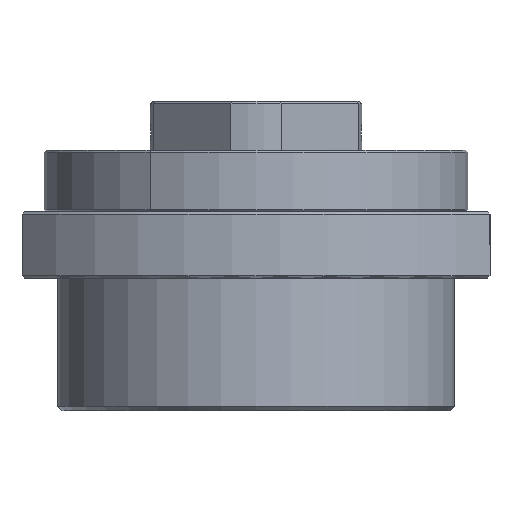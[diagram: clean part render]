
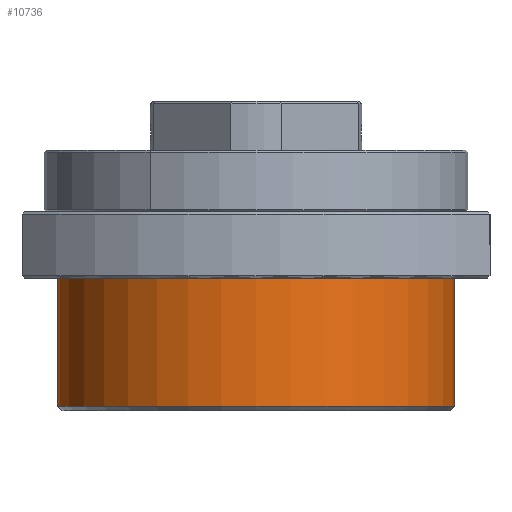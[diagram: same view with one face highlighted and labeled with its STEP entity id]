
A CAD part, left-side view. The second image highlights one B-rep face of the part: STEP entity #10736.
In plain terms, the highlighted cylindrical face has radius 45 mm (diameter 90 mm), a partial arc.
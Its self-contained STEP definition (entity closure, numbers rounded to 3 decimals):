
#40 = VECTOR ( 'NONE', #2306, 1000. ) ;
#304 = CARTESIAN_POINT ( 'NONE',  ( 0., -45., 7.5 ) ) ;
#368 = DIRECTION ( 'NONE',  ( 0., 0., -1. ) ) ;
#474 = VERTEX_POINT ( 'NONE', #6356 ) ;
#580 = FACE_OUTER_BOUND ( 'NONE', #3702, .T. ) ;
#2306 = DIRECTION ( 'NONE',  ( 0., 0., -1. ) ) ;
#2364 = CARTESIAN_POINT ( 'NONE',  ( 0., 0., -21.5 ) ) ;
#2968 = LINE ( 'NONE', #6537, #3450 ) ;
#3433 = DIRECTION ( 'NONE',  ( 0., 0., 1. ) ) ;
#3450 = VECTOR ( 'NONE', #368, 1000. ) ;
#3683 = DIRECTION ( 'NONE',  ( 0., 0., -1. ) ) ;
#3702 = EDGE_LOOP ( 'NONE', ( #9459, #12394, #5554, #9456 ) ) ;
#3896 = CYLINDRICAL_SURFACE ( 'NONE', #8167, 45. ) ;
#3913 = EDGE_CURVE ( 'NONE', #6608, #13615, #8793, .T. ) ;
#4857 = CARTESIAN_POINT ( 'NONE',  ( 0., 0., 7.5 ) ) ;
#4946 = VERTEX_POINT ( 'NONE', #9524 ) ;
#5554 = ORIENTED_EDGE ( 'NONE', *, *, #3913, .T. ) ;
#5736 = CIRCLE ( 'NONE', #12084, 45. ) ;
#6356 = CARTESIAN_POINT ( 'NONE',  ( 0., 45., 7.5 ) ) ;
#6537 = CARTESIAN_POINT ( 'NONE',  ( 0., 45., 7.5 ) ) ;
#6608 = VERTEX_POINT ( 'NONE', #9528 ) ;
#7778 = DIRECTION ( 'NONE',  ( 0., 1., 0. ) ) ;
#7988 = DIRECTION ( 'NONE',  ( 0., -1., 0. ) ) ;
#8041 = LINE ( 'NONE', #304, #40 ) ;
#8135 = DIRECTION ( 'NONE',  ( 0., 0., -1. ) ) ;
#8167 = AXIS2_PLACEMENT_3D ( 'NONE', #4857, #8135, #7988 ) ;
#8793 = CIRCLE ( 'NONE', #9870, 45. ) ;
#9119 = EDGE_CURVE ( 'NONE', #474, #6608, #2968, .T. ) ;
#9456 = ORIENTED_EDGE ( 'NONE', *, *, #12812, .F. ) ;
#9459 = ORIENTED_EDGE ( 'NONE', *, *, #12325, .T. ) ;
#9524 = CARTESIAN_POINT ( 'NONE',  ( 0., -45., 7.5 ) ) ;
#9528 = CARTESIAN_POINT ( 'NONE',  ( 0., 45., -21.5 ) ) ;
#9870 = AXIS2_PLACEMENT_3D ( 'NONE', #2364, #3433, #7778 ) ;
#10182 = CARTESIAN_POINT ( 'NONE',  ( 0., 0., 7.5 ) ) ;
#10736 = ADVANCED_FACE ( 'NONE', ( #580 ), #3896, .T. ) ;
#12084 = AXIS2_PLACEMENT_3D ( 'NONE', #10182, #3683, #13395 ) ;
#12325 = EDGE_CURVE ( 'NONE', #4946, #474, #5736, .T. ) ;
#12394 = ORIENTED_EDGE ( 'NONE', *, *, #9119, .T. ) ;
#12812 = EDGE_CURVE ( 'NONE', #4946, #13615, #8041, .T. ) ;
#13361 = CARTESIAN_POINT ( 'NONE',  ( 0., -45., -21.5 ) ) ;
#13395 = DIRECTION ( 'NONE',  ( 0., -1., 0. ) ) ;
#13615 = VERTEX_POINT ( 'NONE', #13361 ) ;
